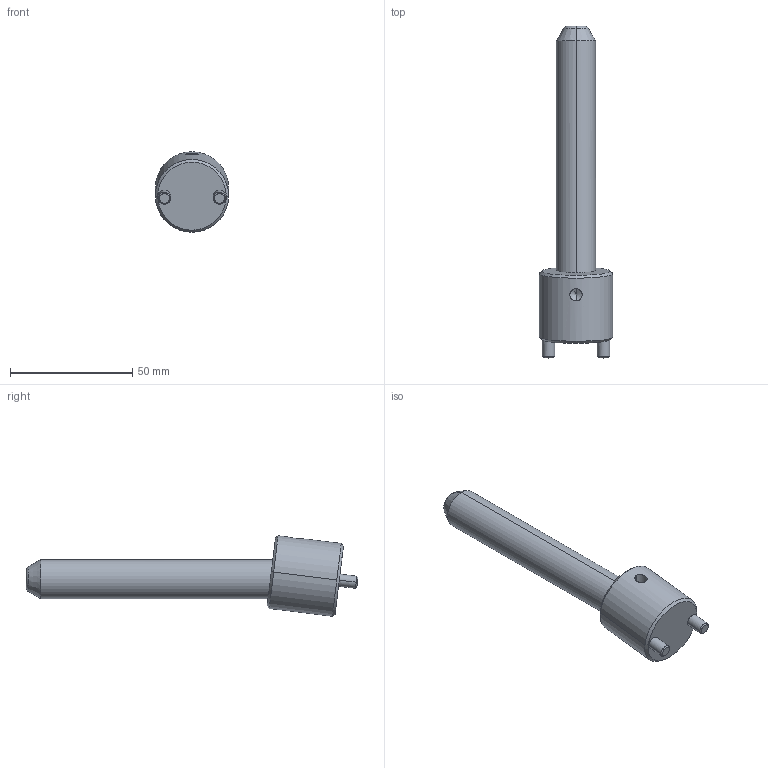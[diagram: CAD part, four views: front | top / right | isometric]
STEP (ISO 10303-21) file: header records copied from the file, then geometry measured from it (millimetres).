
FILE_DESCRIPTION(('CATIA V5 STEP Exchange'),'2;1');
FILE_NAME('C:\Users\Raffaele\Desktop\3D BOLEX\3D FILES CF BOLEX\19-INCLINED ASSEMBLY REF_CI\CI0716100.stp','2019-06-24T07:06:18+00:00',('none'),('none'),'CATIA Version 5 Release 20 GA (IN-10)','CATIA V5 STEP AP203','none');
FILE_SCHEMA(('CONFIG_CONTROL_DESIGN'));
Length unit declared in the file: millimetre
Products named in the file (1): CI0716100
Assembly tree (2 placements, depth 2):
  CI0716100
    #58
    #578
Bounding box: 30 x 135.84 x 32.95 mm (x, y, z)
Volume: 39337.4 mm3; surface area: 11983.5 mm2
Topology: 2 solids, 2 shells, 39 faces, 82 edges, 47 vertices
Faces by surface type: cone 14, cylinder 14, plane 7, torus 4
Entity records: 1467 total; most frequent: CARTESIAN_POINT 608, ORIENTED_EDGE 160, DIRECTION 145, EDGE_CURVE 80, AXIS2_PLACEMENT_3D 72, VERTEX_POINT 47, EDGE_LOOP 43, ADVANCED_FACE 39
